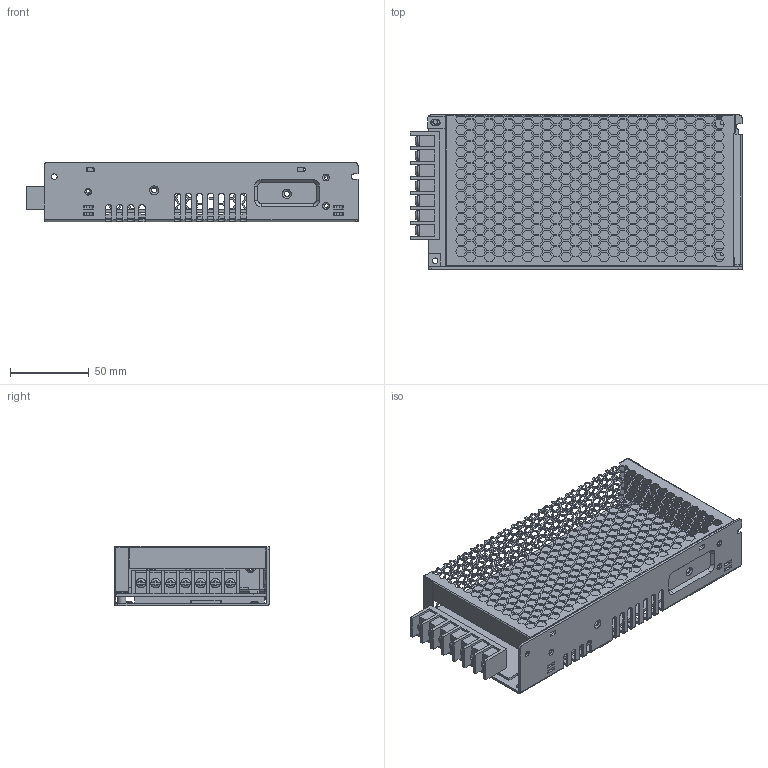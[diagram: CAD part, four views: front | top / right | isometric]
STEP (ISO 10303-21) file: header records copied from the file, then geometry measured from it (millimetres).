
FILE_DESCRIPTION(('OneSpaceDesigner STEP Export'),'2;1');
FILE_NAME('HRP.G-200.stp','2010-06-08T13:42:06',(''),(''),'OneSpace Designer STEP processor for AP214 (Solid Model)','OneSpace Designer 13.20 11-May-2005 (C) CoCreate Software GmbH','');
FILE_SCHEMA(('AUTOMOTIVE_DESIGN { 1 0 10303 214 1 1 1 1 }'));
Length unit declared in the file: millimetre
Products named in the file (11): PCB; HS3; hs-247; tn.1.1.1.1; tn.1.1.1; ºÝ¤l; M3-7L.2; CASE; ¤U»\²Õ; HRP-200
Assembly tree (10 placements, depth 4):
  HRP-200
    ¤U»\²Õ
      CASE
      M3-7L.2
    PCB
      ºÝ¤l
        tn.1.1.1
        tn.1.1.1.1
      hs-247
      HS3
      PCB
Bounding box: 210.5 x 98.1 x 37.6 mm (x, y, z)
Volume: 98216.3 mm3; surface area: 138085.8 mm2
Topology: 6 solids, 7 shells, 3805 faces, 11273 edges, 7422 vertices
Faces by surface type: plane 3399, cylinder 278, bspline 56, torus 50, cone 22
Entity records: 133272 total; most frequent: CARTESIAN_POINT 31046, ORIENTED_EDGE 22560, DIRECTION 18169, EDGE_CURVE 11273, VECTOR 10257, LINE 10257, VERTEX_POINT 7422, EDGE_LOOP 4812
